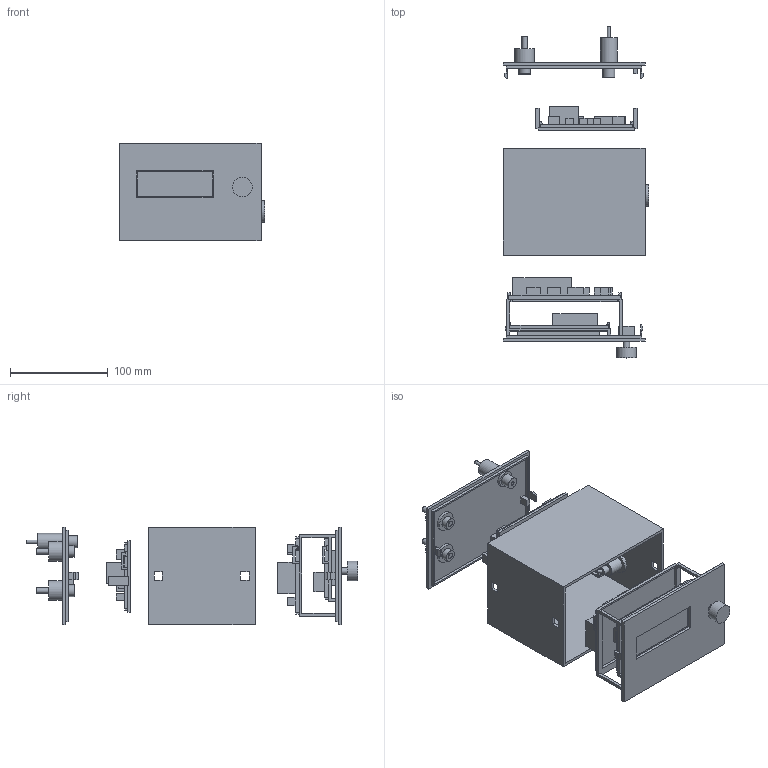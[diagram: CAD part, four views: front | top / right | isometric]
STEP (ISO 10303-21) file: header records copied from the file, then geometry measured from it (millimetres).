
FILE_DESCRIPTION(('Open CASCADE Model'),'2;1');
FILE_NAME('Open CASCADE Shape Model','2026-11-04T22:00:47',('Author'),( 'Open CASCADE'),'Open CASCADE STEP processor 7.8','Open CASCADE 7.8' ,'Unknown');
FILE_SCHEMA(('AUTOMOTIVE_DESIGN { 1 0 10303 214 1 1 1 1 }'));
Length unit declared in the file: millimetre
Products named in the file (67): Exploded_fit_study_04_Removable_Front; 01_Shell_open_front_and_rear; 02_Removable_front_LCD_A; 03_B_removable_carrier; 04_Rear_panel_with_latches; PCB_A; A_U1_ENVELOPE; A_U2_ENVELOPE; A_J1_ENVELOPE; A_J6_ENVELOPE; A_J7_ENVELOPE; A_J2_ENVELOPE; A_J3_ENVELOPE; A_J4_ENVELOPE; A_J5_ENVELOPE; A_JP1_ENVELOPE; A_C1_ENVELOPE; A_C2_ENVELOPE; A_C3_ENVELOPE; A_R1_ENVELOPE; A_R2_ENVELOPE; A_R3_ENVELOPE; A_R4_ENVELOPE; A_R5_ENVELOPE; PCB_B; B_U1_ENVELOPE; B_U2_ENVELOPE; B_U3_ENVELOPE; B_U4_ENVELOPE; B_Q1_ENVELOPE; B_F1_ENVELOPE; B_D1_ENVELOPE; B_D2_ENVELOPE; B_J2_ENVELOPE; B_J3_ENVELOPE; B_J4_ENVELOPE; B_J1_ENVELOPE; B_J6_ENVELOPE; B_J7_ENVELOPE; B_C1_ENVELOPE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
Assembly tree (66 placements, depth 2):
  Exploded_fit_study_04_Removable_Front
    01_Shell_open_front_and_rear
    02_Removable_front_LCD_A
    03_B_removable_carrier
    04_Rear_panel_with_latches
    PCB_A
    A_U1_ENVELOPE
    A_U2_ENVELOPE
    A_J1_ENVELOPE
    A_J6_ENVELOPE
    A_J7_ENVELOPE
    A_J2_ENVELOPE
    A_J3_ENVELOPE
    A_J4_ENVELOPE
    A_J5_ENVELOPE
    A_JP1_ENVELOPE
    A_C1_ENVELOPE
    A_C2_ENVELOPE
    A_C3_ENVELOPE
    A_R1_ENVELOPE
    A_R2_ENVELOPE
    A_R3_ENVELOPE
    A_R4_ENVELOPE
    A_R5_ENVELOPE
    PCB_B
    B_U1_ENVELOPE
    B_U2_ENVELOPE
    B_U3_ENVELOPE
    B_U4_ENVELOPE
    B_Q1_ENVELOPE
    B_F1_ENVELOPE
    B_D1_ENVELOPE
    B_D2_ENVELOPE
    B_J2_ENVELOPE
    B_J3_ENVELOPE
    B_J4_ENVELOPE
    B_J1_ENVELOPE
    B_J6_ENVELOPE
    B_J7_ENVELOPE
    B_C1_ENVELOPE
    B_C2_ENVELOPE
    B_C3_ENVELOPE
    B_C4_ENVELOPE
    B_C5_ENVELOPE
    B_R1_ENVELOPE
    B_R2_ENVELOPE
    B_R3_ENVELOPE
    B_R4_ENVELOPE
    B_R5_ENVELOPE
    B_R6_ENVELOPE
    B_R7_ENVELOPE
    LCD_PCB_98x60_TBD
    LCD_front_bezel_TBD
    LCD_backpack_TBD
    LCD_visible_screen
    Encoder_body_TBD
    Encoder_shaft
    Encoder_knob_TBD
    USB_C_PANEL_DATA_EXTENSION_TBD
    USB_C_DEVKIT_MALE_PLUG_TBD
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Bounding box: 149 x 339 x 100 mm (x, y, z)
Volume: 450194.9 mm3; surface area: 304797.5 mm2
Topology: 66 solids, 66 shells, 750 faces, 1787 edges, 1188 vertices
Faces by surface type: plane 717, cylinder 33
Full cylindrical faces by diameter (mm): 3 x3, 3.5 x1, 4.3 x1, 5.5 x2, 6.3 x2, 6.4 x1, 7.2 x1, 8 x1, 12 x6, 12.4 x1, 12.5 x2, 15 x2, 16 x1, 17 x2, 20 x5, 22 x2
Entity records: 46259 total; most frequent: CARTESIAN_POINT 7420, DIRECTION 7059, LINE 5213, VECTOR 5213, ORIENTED_EDGE 3574, PCURVE 3574, DEFINITIONAL_REPRESENTATION 3574, EDGE_CURVE 1787
